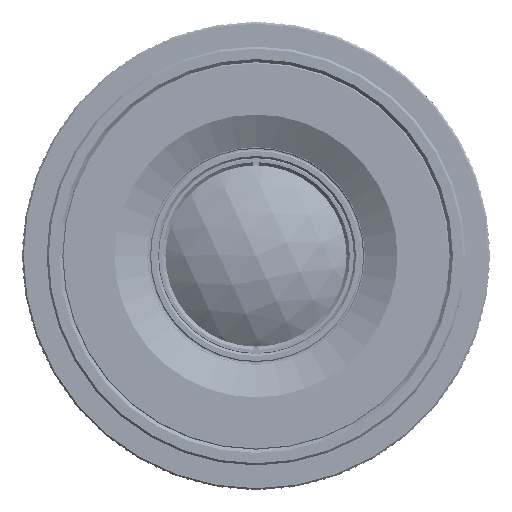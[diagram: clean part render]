
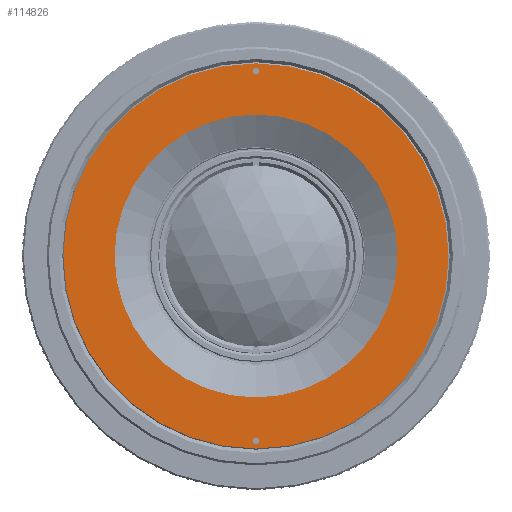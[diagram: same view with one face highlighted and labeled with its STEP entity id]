
A CAD part, top view. The second image highlights one B-rep face of the part: STEP entity #114826.
In plain terms, the highlighted planar face has unit normal (0, 0, 1).
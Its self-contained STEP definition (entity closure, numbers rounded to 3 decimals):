
#114371=CARTESIAN_POINT('',(0.,0.,0.));
#114372=DIRECTION('',(0.,0.,1.));
#114373=DIRECTION('',(-1.,0.,0.));
#114374=AXIS2_PLACEMENT_3D('',#114371,#114372,#114373);
#114376=CARTESIAN_POINT('',(0.,0.,0.));
#114377=DIRECTION('',(0.,0.,1.));
#114378=DIRECTION('',(1.,0.,0.));
#114379=AXIS2_PLACEMENT_3D('',#114376,#114377,#114378);
#114381=CARTESIAN_POINT('',(0.,-34.,0.));
#114382=DIRECTION('',(0.,0.,-1.));
#114383=DIRECTION('',(-1.,0.,0.));
#114384=AXIS2_PLACEMENT_3D('',#114381,#114382,#114383);
#114386=CARTESIAN_POINT('',(0.,-34.,0.));
#114387=DIRECTION('',(0.,0.,-1.));
#114388=DIRECTION('',(1.,0.,0.));
#114389=AXIS2_PLACEMENT_3D('',#114386,#114387,#114388);
#114391=CARTESIAN_POINT('',(0.,34.,0.));
#114392=DIRECTION('',(0.,0.,-1.));
#114393=DIRECTION('',(-1.,0.,0.));
#114394=AXIS2_PLACEMENT_3D('',#114391,#114392,#114393);
#114396=CARTESIAN_POINT('',(0.,34.,0.));
#114397=DIRECTION('',(0.,0.,-1.));
#114398=DIRECTION('',(1.,0.,0.));
#114399=AXIS2_PLACEMENT_3D('',#114396,#114397,#114398);
#114401=CARTESIAN_POINT('',(0.,0.,0.));
#114402=DIRECTION('',(0.,0.,-1.));
#114403=DIRECTION('',(-1.,0.,0.));
#114404=AXIS2_PLACEMENT_3D('',#114401,#114402,#114403);
#114406=CARTESIAN_POINT('',(0.,0.,0.));
#114407=DIRECTION('',(0.,0.,-1.));
#114408=DIRECTION('',(1.,0.,0.));
#114409=AXIS2_PLACEMENT_3D('',#114406,#114407,#114408);
#114683=CARTESIAN_POINT('',(26.,0.,0.));
#114684=CARTESIAN_POINT('',(-26.,0.,0.));
#114685=VERTEX_POINT('',#114683);
#114686=VERTEX_POINT('',#114684);
#114691=CARTESIAN_POINT('',(0.55,-34.,0.));
#114693=VERTEX_POINT('',#114691);
#114714=CARTESIAN_POINT('',(35.4,0.,0.));
#114716=VERTEX_POINT('',#114714);
#114735=CARTESIAN_POINT('',(-35.4,0.,0.));
#114736=VERTEX_POINT('',#114735);
#114751=CARTESIAN_POINT('',(-0.55,-34.,0.));
#114752=VERTEX_POINT('',#114751);
#114755=CARTESIAN_POINT('',(0.55,34.,0.));
#114756=VERTEX_POINT('',#114755);
#114757=CARTESIAN_POINT('',(-0.55,34.,0.));
#114758=VERTEX_POINT('',#114757);
#114799=CARTESIAN_POINT('',(0.,36.,0.));
#114800=DIRECTION('',(0.,0.,-1.));
#114801=DIRECTION('',(-1.,0.,0.));
#114802=AXIS2_PLACEMENT_3D('',#114799,#114800,#114801);
#114803=PLANE('',#114802);
#114805=ORIENTED_EDGE('',*,*,#114804,.F.);
#114807=ORIENTED_EDGE('',*,*,#114806,.F.);
#114808=EDGE_LOOP('',(#114805,#114807));
#114809=FACE_OUTER_BOUND('',#114808,.F.);
#114810=ORIENTED_EDGE('',*,*,#114792,.F.);
#114811=ORIENTED_EDGE('',*,*,#114768,.F.);
#114812=EDGE_LOOP('',(#114810,#114811));
#114813=FACE_BOUND('',#114812,.F.);
#114815=ORIENTED_EDGE('',*,*,#114814,.F.);
#114817=ORIENTED_EDGE('',*,*,#114816,.F.);
#114818=EDGE_LOOP('',(#114815,#114817));
#114819=FACE_BOUND('',#114818,.F.);
#114821=ORIENTED_EDGE('',*,*,#114820,.F.);
#114823=ORIENTED_EDGE('',*,*,#114822,.F.);
#114824=EDGE_LOOP('',(#114821,#114823));
#114825=FACE_BOUND('',#114824,.F.);
#114375=CIRCLE('',#114374,35.4);
#114380=CIRCLE('',#114379,35.4);
#114385=CIRCLE('',#114384,0.55);
#114390=CIRCLE('',#114389,0.55);
#114395=CIRCLE('',#114394,0.55);
#114400=CIRCLE('',#114399,0.55);
#114405=CIRCLE('',#114404,26.);
#114410=CIRCLE('',#114409,26.);
#114768=EDGE_CURVE('',#114693,#114752,#114390,.T.);
#114792=EDGE_CURVE('',#114752,#114693,#114385,.T.);
#114804=EDGE_CURVE('',#114736,#114716,#114375,.T.);
#114806=EDGE_CURVE('',#114716,#114736,#114380,.T.);
#114814=EDGE_CURVE('',#114758,#114756,#114395,.T.);
#114816=EDGE_CURVE('',#114756,#114758,#114400,.T.);
#114820=EDGE_CURVE('',#114686,#114685,#114405,.T.);
#114822=EDGE_CURVE('',#114685,#114686,#114410,.T.);
#114826=ADVANCED_FACE('',(#114809,#114813,#114819,#114825),#114803,.F.);
